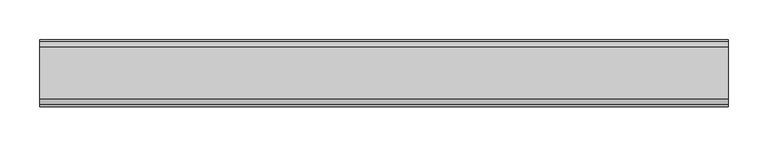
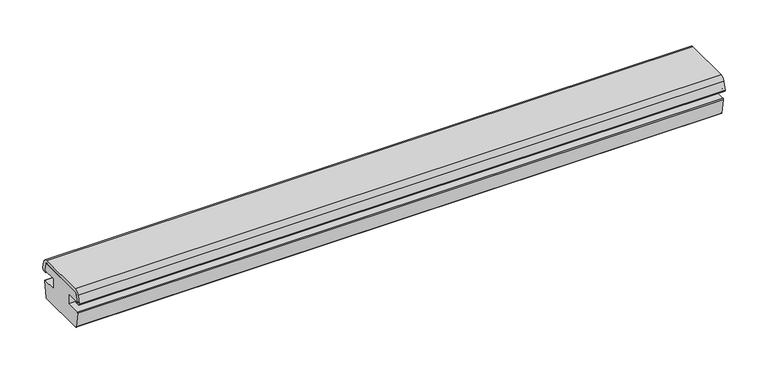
"""IFC4 building model written with IfcOpenShell, lengths in millimetres: proxy geometry, Weiku - Montante - Divisor fixo 02.2.01.041 : Weiku - Montante - Divisor fixo 02.2.01.041."""

from ifc_helpers import new_model, si_unit, point, frame, frame_2d, origin, place, context, project, spatial, polyline, circle_curve, trimmed, segment, composite_curve, outline, extrude, source, transform, mapped, element, save


def generic_models_f451dec7(model_context):
    return source(origin(), model_context, "Body", "SweptSolid", [
        extrude(outline(composite_curve([segment(trimmed(circle_curve(frame_2d((-33.0007245, 47.0)), 3.0), [point((-33.0007245, 50.0))], [point((-35.898502, 47.7764571))], True, "CARTESIAN"), True, "CONTINUOUS"), segment(polyline([(-35.898502, 47.7764571), (-38.4496907, 38.2552914)]), True, "CONTINUOUS"), segment(trimmed(circle_curve(frame_2d((-37.8701352, 38.1)), 0.6), [point((-38.4496907, 38.2552914))], [point((-37.8701352, 37.5))], True, "CARTESIAN"), True, "CONTINUOUS"), segment(polyline([(-37.8701352, 37.5), (-35.6935072, 37.5), (-35.6935072, 35.5), (-39.6935072, 35.5)]), True, "CONTINUOUS"), segment(trimmed(circle_curve(frame_2d((-39.6935072, 38.5)), 3.0), [point((-39.6935072, 35.5))], [point((-42.6544744, 38.0176381))], False, "CARTESIAN"), True, "CONTINUOUS"), segment(polyline([(-42.6544744, 38.0176381), (-39.7622053, 48.8117333)]), True, "CONTINUOUS"), segment(trimmed(circle_curve(frame_2d((-33.0007245, 47.0)), 7.0), [point((-39.7622053, 48.8117333))], [point((-33.0007245, 54.0))], False, "CARTESIAN"), True, "CONTINUOUS"), segment(polyline([(-33.0007245, 54.0), (33.0007245, 54.0)]), True, "CONTINUOUS"), segment(trimmed(circle_curve(frame_2d((33.0007245, 47.0)), 7.0), [point((33.0007245, 54.0))], [point((39.7622053, 48.8117333))], False, "CARTESIAN"), True, "CONTINUOUS"), segment(polyline([(39.7622053, 48.8117333), (42.3171749, 39.2764571)]), True, "CONTINUOUS"), segment(trimmed(circle_curve(frame_2d((39.4193974, 38.5)), 3.0), [point((42.3171749, 39.2764571))], [point((39.4193974, 35.5))], False, "CARTESIAN"), True, "CONTINUOUS"), segment(polyline([(39.4193974, 35.5), (35.6935072, 35.5), (35.6935072, 37.5), (37.8701352, 37.5)]), True, "CONTINUOUS"), segment(trimmed(circle_curve(frame_2d((37.8701352, 38.1)), 0.6), [point((37.8701352, 37.5))], [point((38.4496907, 38.2552914))], True, "CARTESIAN"), True, "CONTINUOUS"), segment(polyline([(38.4496907, 38.2552914), (35.898502, 47.7764571)]), True, "CONTINUOUS"), segment(trimmed(circle_curve(frame_2d((33.0007245, 47.0)), 3.0), [point((35.898502, 47.7764571))], [point((33.0007245, 50.0))], True, "CARTESIAN"), True, "CONTINUOUS"), segment(polyline([(33.0007245, 50.0), (-33.0007245, 50.0)]), True, "CONTINUOUS")], self_intersect=False)), frame((-435.0, 0.0, 0.0), z_axis=(1.0, 0.0, 0.0), x_axis=(0.0, 1.0, 0.0)), (0.0, 0.0, 1.0), 870.0),
        extrude(outline(composite_curve([segment(polyline([(-33.0007245, 50.0), (33.0007245, 50.0)]), True, "CONTINUOUS"), segment(trimmed(circle_curve(frame_2d((33.0007245, 47.0)), 3.0), [point((33.0007245, 50.0))], [point((35.898502, 47.7764571))], False, "CARTESIAN"), True, "CONTINUOUS"), segment(polyline([(35.898502, 47.7764571), (38.4496907, 38.2552914)]), True, "CONTINUOUS"), segment(trimmed(circle_curve(frame_2d((37.8701352, 38.1)), 0.6), [point((38.4496907, 38.2552914))], [point((37.8701352, 37.5))], False, "CARTESIAN"), True, "CONTINUOUS"), segment(polyline([(37.8701352, 37.5), (17.5004577, 37.5), (17.5004577, 23.5), (37.5139562, 23.5)]), True, "CONTINUOUS"), segment(trimmed(circle_curve(frame_2d((37.5139562, 22.5)), 1.0), [point((37.5139562, 23.5))], [point((38.5006041, 22.3371317))], False, "CARTESIAN"), True, "CONTINUOUS"), segment(polyline([(38.5006041, 22.3371317), (34.9515483, 0.8371317)]), True, "CONTINUOUS"), segment(trimmed(circle_curve(frame_2d((33.9649005, 1.0)), 1.0), [point((34.9515483, 0.8371317))], [point((33.9649005, 0.0))], False, "CARTESIAN"), True, "CONTINUOUS"), segment(polyline([(33.9649005, 0.0), (-33.9649005, 0.0)]), True, "CONTINUOUS"), segment(trimmed(circle_curve(frame_2d((-33.9649005, 1.0)), 1.0), [point((-33.9649005, 0.0))], [point((-34.9515483, 0.8371317))], False, "CARTESIAN"), True, "CONTINUOUS"), segment(polyline([(-34.9515483, 0.8371317), (-38.5006041, 22.3371317)]), True, "CONTINUOUS"), segment(trimmed(circle_curve(frame_2d((-37.5139562, 22.5)), 1.0), [point((-38.5006041, 22.3371317))], [point((-37.5139562, 23.5))], False, "CARTESIAN"), True, "CONTINUOUS"), segment(polyline([(-37.5139562, 23.5), (-17.5004577, 23.5), (-17.5004577, 37.5), (-37.8701352, 37.5)]), True, "CONTINUOUS"), segment(trimmed(circle_curve(frame_2d((-37.8701352, 38.1)), 0.6), [point((-37.8701352, 37.5))], [point((-38.4496907, 38.2552914))], False, "CARTESIAN"), True, "CONTINUOUS"), segment(polyline([(-38.4496907, 38.2552914), (-35.898502, 47.7764571)]), True, "CONTINUOUS"), segment(trimmed(circle_curve(frame_2d((-33.0007245, 47.0)), 3.0), [point((-35.898502, 47.7764571))], [point((-33.0007245, 50.0))], False, "CARTESIAN"), True, "CONTINUOUS")], self_intersect=False)), frame((-435.0, 0.0, 0.0), z_axis=(1.0, 0.0, 0.0), x_axis=(0.0, 1.0, 0.0)), (0.0, 0.0, 1.0), 870.0),
    ])


if __name__ == "__main__":
    model = new_model("IFC4")
    model_context = context("Model", 3, world=origin())
    ifc_project = project(units=[si_unit("LENGTHUNIT", "METRE", prefix="MILLI")], contexts=[model_context])
    site = spatial("IfcSite", under=ifc_project)
    building = spatial("IfcBuilding", under=site)
    placement = place(None, origin())
    generic_models_shape = generic_models_f451dec7(model_context)
    element("IfcBuildingElementProxy", 1, Name="Weiku - Montante - Divisor fixo 02.2.01.041 : Weiku - Montante - Divisor fixo 02.2.01.041", ObjectType="Weiku - Montante - Divisor fixo 02.2.01.041 : Weiku - Montante - Divisor fixo 02.2.01.041", at=placement, inside=building, context=model_context, shape_type="MappedRepresentation", body=[
        mapped(generic_models_shape, transform((0.0, 0.0, 0.0), x_axis=(1.0, 0.0, 0.0), y_axis=(0.0, 1.0, 0.0), z_axis=(0.0, 0.0, 1.0))),
    ])
    save(model, "model.ifc")
